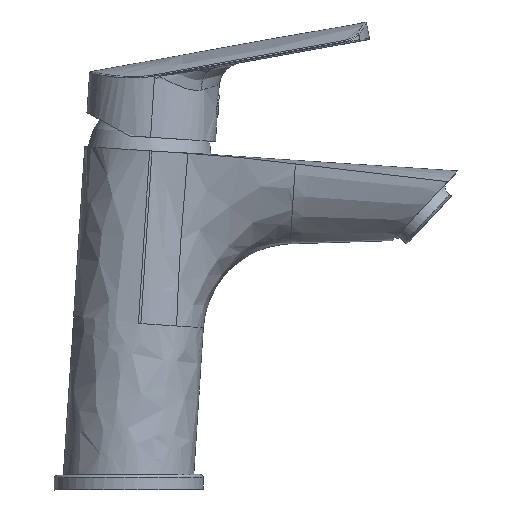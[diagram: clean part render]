
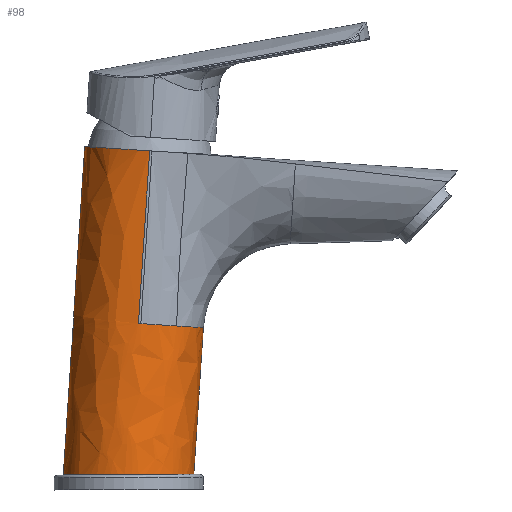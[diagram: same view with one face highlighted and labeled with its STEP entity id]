
A CAD part, left-side view. The second image highlights one B-rep face of the part: STEP entity #98.
In plain terms, the highlighted free-form (B-spline) face has degree [2, 1] with [9, 2] control points.
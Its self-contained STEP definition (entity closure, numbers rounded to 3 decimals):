
#98=ADVANCED_FACE('',(#201),#1538,.T.);
#201=FACE_OUTER_BOUND('',#311,.T.);
#311=EDGE_LOOP('',(#540,#541,#542,#543,#544,#545,#546,#547,#548,#549));
#540=ORIENTED_EDGE('',*,*,#956,.T.);
#541=ORIENTED_EDGE('',*,*,#949,.F.);
#542=ORIENTED_EDGE('',*,*,#947,.T.);
#543=ORIENTED_EDGE('',*,*,#950,.F.);
#544=ORIENTED_EDGE('',*,*,#953,.T.);
#545=ORIENTED_EDGE('',*,*,#952,.T.);
#546=ORIENTED_EDGE('',*,*,#955,.T.);
#547=ORIENTED_EDGE('',*,*,#954,.T.);
#548=ORIENTED_EDGE('',*,*,#945,.T.);
#549=ORIENTED_EDGE('',*,*,#951,.F.);
#945=EDGE_CURVE('',#1414,#1412,#1306,.T.);
#947=EDGE_CURVE('',#1415,#1416,#1150,.T.);
#949=EDGE_CURVE('',#1415,#1418,#1151,.T.);
#950=EDGE_CURVE('',#1419,#1416,#1152,.T.);
#951=EDGE_CURVE('',#1404,#1412,#1153,.T.);
#952=EDGE_CURVE('',#1421,#1420,#1308,.T.);
#953=EDGE_CURVE('',#1419,#1421,#1309,.T.);
#954=EDGE_CURVE('',#1422,#1414,#1154,.T.);
#955=EDGE_CURVE('',#1420,#1422,#1310,.T.);
#956=EDGE_CURVE('',#1404,#1418,#1155,.T.);
#1150=B_SPLINE_CURVE_WITH_KNOTS('',3,(#3468,#3469,#3470,#3471,#3472,#3473,
#3474,#3475,#3476,#3477,#3478,#3479,#3480,#3481,#3482,#3483,#3484),
 .UNSPECIFIED.,.F.,.F.,(4,1,1,1,1,1,1,1,1,1,1,1,1,1,4),(0.,0.125,0.25,0.313,
0.375,0.438,0.469,0.5,0.531,0.563,0.625,0.688,0.75,0.875,1.),
 .UNSPECIFIED.);
#1151=B_SPLINE_CURVE_WITH_KNOTS('',1,(#3496,#3497),.UNSPECIFIED.,.F.,.F.,
(2,2),(0.,41.708),.UNSPECIFIED.);
#1152=B_SPLINE_CURVE_WITH_KNOTS('',1,(#3498,#3499),.UNSPECIFIED.,.F.,.F.,
(2,2),(-49.128,0.),.UNSPECIFIED.);
#1153=B_SPLINE_CURVE_WITH_KNOTS('',1,(#3500,#3501),.UNSPECIFIED.,.F.,.F.,
(2,2),(0.,55.997),.UNSPECIFIED.);
#1154=B_SPLINE_CURVE_WITH_KNOTS('',1,(#3508,#3509),.UNSPECIFIED.,.F.,.F.,
(2,2),(-57.828,0.),.UNSPECIFIED.);
#1155=B_SPLINE_CURVE_WITH_KNOTS('',3,(#3513,#3514,#3515,#3516,#3517,#3518,
#3519,#3520,#3521,#3522,#3523,#3524,#3525,#3526,#3527,#3528,#3529,#3530,
#3531,#3532,#3533,#3534),.UNSPECIFIED.,.F.,.F.,(4,2,2,2,2,2,2,2,2,2,4),
(0.,0.031,0.063,0.125,0.25,
0.5,0.75,0.875,0.938,
0.969,1.),.UNSPECIFIED.);
#1306=(
BOUNDED_CURVE()
B_SPLINE_CURVE(2,(#3448,#3449,#3450),.UNSPECIFIED.,.F.,.F.)
B_SPLINE_CURVE_WITH_KNOTS((3,3),(-34.165,0.),.UNSPECIFIED.)
CURVE()
GEOMETRIC_REPRESENTATION_ITEM()
RATIONAL_B_SPLINE_CURVE((1.,0.707,1.))
REPRESENTATION_ITEM('')
);
#1308=(
BOUNDED_CURVE()
B_SPLINE_CURVE(2,(#3502,#3503,#3504),.UNSPECIFIED.,.F.,.F.)
B_SPLINE_CURVE_WITH_KNOTS((3,3),(-12.85,0.),.UNSPECIFIED.)
CURVE()
GEOMETRIC_REPRESENTATION_ITEM()
RATIONAL_B_SPLINE_CURVE((1.,0.957,1.))
REPRESENTATION_ITEM('')
);
#1309=(
BOUNDED_CURVE()
B_SPLINE_CURVE(2,(#3505,#3506,#3507),.UNSPECIFIED.,.F.,.F.)
B_SPLINE_CURVE_WITH_KNOTS((3,3),(0.,20.499),.UNSPECIFIED.)
CURVE()
GEOMETRIC_REPRESENTATION_ITEM()
RATIONAL_B_SPLINE_CURVE((1.,0.891,1.))
REPRESENTATION_ITEM('')
);
#1310=(
BOUNDED_CURVE()
B_SPLINE_CURVE(2,(#3510,#3511,#3512),.UNSPECIFIED.,.F.,.F.)
B_SPLINE_CURVE_WITH_KNOTS((3,3),(0.,0.816),.UNSPECIFIED.)
CURVE()
GEOMETRIC_REPRESENTATION_ITEM()
RATIONAL_B_SPLINE_CURVE((1.,1.,1.))
REPRESENTATION_ITEM('')
);
#1404=VERTEX_POINT('',#3372);
#1412=VERTEX_POINT('',#3380);
#1414=VERTEX_POINT('',#3382);
#1415=VERTEX_POINT('',#3383);
#1416=VERTEX_POINT('',#3384);
#1418=VERTEX_POINT('',#3386);
#1419=VERTEX_POINT('',#3387);
#1420=VERTEX_POINT('',#3388);
#1421=VERTEX_POINT('',#3389);
#1422=VERTEX_POINT('',#3390);
#1538=(
BOUNDED_SURFACE()
B_SPLINE_SURFACE(2,1,((#2575,#2576),(#2577,#2578),(#2579,#2580),(#2581,
#2582),(#2583,#2584),(#2585,#2586),(#2587,#2588),(#2589,#2590),(#2591,#2592)),
 .UNSPECIFIED.,.T.,.F.,.F.)
B_SPLINE_SURFACE_WITH_KNOTS((3,2,2,2,3),(2,2),(0.,34.165,68.33,
102.494,136.659),(0.,132.521),.UNSPECIFIED.)
GEOMETRIC_REPRESENTATION_ITEM()
RATIONAL_B_SPLINE_SURFACE(((1.,1.),(0.707,0.707),
(1.,1.),(0.707,0.707),(1.,1.),(0.707,
0.707),(1.,1.),(0.707,0.707),(1.,1.)))
REPRESENTATION_ITEM('')
SURFACE()
);
#2575=CARTESIAN_POINT('',(21.303,43.264,-86.181));
#2576=CARTESIAN_POINT('',(21.303,34.644,46.059));
#2577=CARTESIAN_POINT('',(21.303,64.968,-84.766));
#2578=CARTESIAN_POINT('',(21.303,56.348,47.474));
#2579=CARTESIAN_POINT('',(-0.447,64.968,-84.766));
#2580=CARTESIAN_POINT('',(-0.447,56.348,47.474));
#2581=CARTESIAN_POINT('',(-22.197,64.968,-84.766));
#2582=CARTESIAN_POINT('',(-22.197,56.348,47.474));
#2583=CARTESIAN_POINT('',(-22.197,43.264,-86.181));
#2584=CARTESIAN_POINT('',(-22.197,34.644,46.059));
#2585=CARTESIAN_POINT('',(-22.197,21.56,-87.596));
#2586=CARTESIAN_POINT('',(-22.197,12.94,44.644));
#2587=CARTESIAN_POINT('',(-0.447,21.56,-87.596));
#2588=CARTESIAN_POINT('',(-0.447,12.94,44.644));
#2589=CARTESIAN_POINT('',(21.303,21.56,-87.596));
#2590=CARTESIAN_POINT('',(21.303,12.94,44.644));
#2591=CARTESIAN_POINT('',(21.303,43.264,-86.181));
#2592=CARTESIAN_POINT('',(21.303,34.644,46.059));
#3372=CARTESIAN_POINT('',(-0.447,60.722,-19.643));
#3380=CARTESIAN_POINT('',(-0.447,57.08,36.236));
#3382=CARTESIAN_POINT('',(-22.197,35.377,34.821));
#3383=CARTESIAN_POINT('',(-0.447,64.235,-73.529));
#3384=CARTESIAN_POINT('',(-0.447,20.63,-73.323));
#3386=CARTESIAN_POINT('',(-0.447,61.522,-31.91));
#3387=CARTESIAN_POINT('',(-0.447,17.434,-24.299));
#3388=CARTESIAN_POINT('',(-22.182,38.324,-22.937));
#3389=CARTESIAN_POINT('',(-18.042,26.381,-23.715));
#3390=CARTESIAN_POINT('',(-22.197,39.138,-22.884));
#3448=CARTESIAN_POINT('',(-22.197,35.377,34.821));
#3449=CARTESIAN_POINT('',(-22.197,57.08,36.236));
#3450=CARTESIAN_POINT('',(-0.447,57.08,36.236));
#3468=CARTESIAN_POINT('',(-0.447,64.235,-73.529));
#3469=CARTESIAN_POINT('',(-3.01,64.235,-73.529));
#3470=CARTESIAN_POINT('',(-8.55,63.304,-73.525));
#3471=CARTESIAN_POINT('',(-14.989,59.141,-73.505));
#3472=CARTESIAN_POINT('',(-18.789,54.433,-73.483));
#3473=CARTESIAN_POINT('',(-20.815,50.482,-73.464));
#3474=CARTESIAN_POINT('',(-21.777,47.068,-73.448));
#3475=CARTESIAN_POINT('',(-22.14,44.38,-73.435));
#3476=CARTESIAN_POINT('',(-22.225,42.432,-73.426));
#3477=CARTESIAN_POINT('',(-22.14,40.485,-73.417));
#3478=CARTESIAN_POINT('',(-21.777,37.797,-73.404));
#3479=CARTESIAN_POINT('',(-20.815,34.383,-73.388));
#3480=CARTESIAN_POINT('',(-18.789,30.432,-73.369));
#3481=CARTESIAN_POINT('',(-14.989,25.724,-73.347));
#3482=CARTESIAN_POINT('',(-8.55,21.56,-73.327));
#3483=CARTESIAN_POINT('',(-3.01,20.63,-73.323));
#3484=CARTESIAN_POINT('',(-0.447,20.63,-73.323));
#3496=CARTESIAN_POINT('',(-0.447,64.235,-73.529));
#3497=CARTESIAN_POINT('',(-0.447,61.522,-31.91));
#3498=CARTESIAN_POINT('',(-0.447,17.434,-24.299));
#3499=CARTESIAN_POINT('',(-0.447,20.63,-73.323));
#3500=CARTESIAN_POINT('',(-0.447,60.722,-19.643));
#3501=CARTESIAN_POINT('',(-0.447,57.08,36.236));
#3502=CARTESIAN_POINT('',(-18.042,26.381,-23.715));
#3503=CARTESIAN_POINT('',(-21.933,31.724,-23.367));
#3504=CARTESIAN_POINT('',(-22.182,38.324,-22.937));
#3505=CARTESIAN_POINT('',(-0.447,17.434,-24.299));
#3506=CARTESIAN_POINT('',(-11.529,17.434,-24.299));
#3507=CARTESIAN_POINT('',(-18.042,26.381,-23.715));
#3508=CARTESIAN_POINT('',(-22.197,39.138,-22.884));
#3509=CARTESIAN_POINT('',(-22.197,35.377,34.821));
#3510=CARTESIAN_POINT('',(-22.182,38.324,-22.937));
#3511=CARTESIAN_POINT('',(-22.197,38.731,-22.91));
#3512=CARTESIAN_POINT('',(-22.197,39.138,-22.884));
#3513=CARTESIAN_POINT('',(-0.447,60.722,-19.643));
#3514=CARTESIAN_POINT('',(-0.776,60.722,-19.643));
#3515=CARTESIAN_POINT('',(-0.964,60.725,-19.776));
#3516=CARTESIAN_POINT('',(-1.273,60.732,-20.005));
#3517=CARTESIAN_POINT('',(-1.382,60.734,-20.127));
#3518=CARTESIAN_POINT('',(-1.688,60.744,-20.502));
#3519=CARTESIAN_POINT('',(-1.838,60.755,-20.758));
#3520=CARTESIAN_POINT('',(-2.215,60.777,-21.529));
#3521=CARTESIAN_POINT('',(-2.385,60.794,-22.053));
#3522=CARTESIAN_POINT('',(-2.792,60.857,-23.628));
#3523=CARTESIAN_POINT('',(-2.918,60.91,-24.688));
#3524=CARTESIAN_POINT('',(-2.968,61.043,-26.815));
#3525=CARTESIAN_POINT('',(-2.895,61.121,-27.883));
#3526=CARTESIAN_POINT('',(-2.523,61.264,-29.483));
#3527=CARTESIAN_POINT('',(-2.361,61.312,-30.016));
#3528=CARTESIAN_POINT('',(-1.965,61.393,-30.801));
#3529=CARTESIAN_POINT('',(-1.8,61.427,-31.063));
#3530=CARTESIAN_POINT('',(-1.465,61.468,-31.442));
#3531=CARTESIAN_POINT('',(-1.343,61.481,-31.563));
#3532=CARTESIAN_POINT('',(-0.996,61.509,-31.789));
#3533=CARTESIAN_POINT('',(-0.772,61.522,-31.91));
#3534=CARTESIAN_POINT('',(-0.447,61.522,-31.91));
